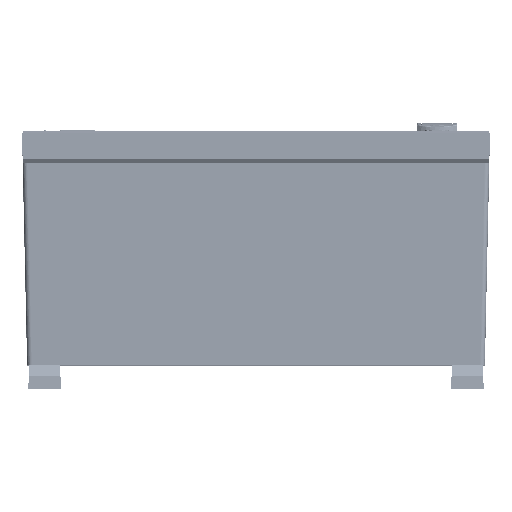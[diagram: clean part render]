
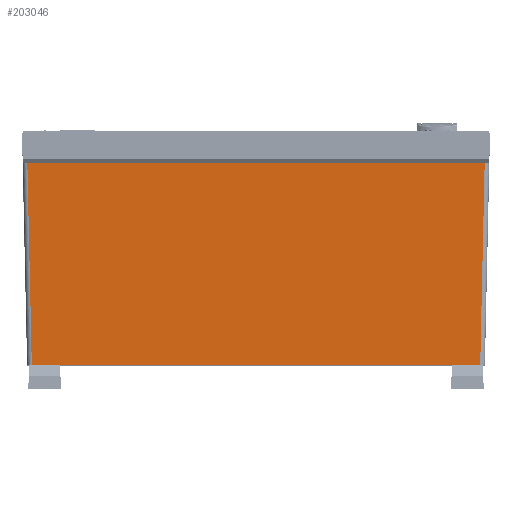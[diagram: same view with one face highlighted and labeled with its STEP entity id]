
A CAD part, top view. The second image highlights one B-rep face of the part: STEP entity #203046.
In plain terms, the highlighted planar face has unit normal (0, -0.022, 1).
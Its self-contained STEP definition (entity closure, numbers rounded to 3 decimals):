
#19193 = EDGE_CURVE ( 'NONE', #250853, #125701, #122202, .T. ) ;
#24388 = DIRECTION ( 'NONE',  ( 0.022, -1., -0.022 ) ) ;
#43624 = CARTESIAN_POINT ( 'NONE',  ( 192.001, 0., 234. ) ) ;
#51003 = EDGE_CURVE ( 'NONE', #250853, #184076, #71271, .T. ) ;
#51835 = CARTESIAN_POINT ( 'NONE',  ( 192.087, 3.912, 234.086 ) ) ;
#52906 = VECTOR ( 'NONE', #100796, 1000. ) ;
#70025 = CARTESIAN_POINT ( 'NONE',  ( 250., 173., 237.8 ) ) ;
#71271 = LINE ( 'NONE', #194657, #52906 ) ;
#72887 = PLANE ( 'NONE',  #252632 ) ;
#79545 = VECTOR ( 'NONE', #24388, 1000. ) ;
#100796 = DIRECTION ( 'NONE',  ( -1., 0., 0. ) ) ;
#103411 = VERTEX_POINT ( 'NONE', #260482 ) ;
#107062 = CARTESIAN_POINT ( 'NONE',  ( 195.814, 173., 237.8 ) ) ;
#111515 = VECTOR ( 'NONE', #232271, 1000. ) ;
#122202 = LINE ( 'NONE', #51835, #111515 ) ;
#125701 = VERTEX_POINT ( 'NONE', #107062 ) ;
#127172 = CARTESIAN_POINT ( 'NONE',  ( -192.001, 0., 234. ) ) ;
#141451 = VECTOR ( 'NONE', #276987, 1000. ) ;
#141795 = DIRECTION ( 'NONE',  ( 0., 0.022, -1. ) ) ;
#144199 = ORIENTED_EDGE ( 'NONE', *, *, #271610, .T. ) ;
#168190 = CARTESIAN_POINT ( 'NONE',  ( -195.805, 172.625, 237.792 ) ) ;
#169170 = ORIENTED_EDGE ( 'NONE', *, *, #19193, .T. ) ;
#184076 = VERTEX_POINT ( 'NONE', #127172 ) ;
#184699 = ORIENTED_EDGE ( 'NONE', *, *, #51003, .F. ) ;
#194657 = CARTESIAN_POINT ( 'NONE',  ( 250., 0., 234. ) ) ;
#203046 = ADVANCED_FACE ( 'NONE', ( #213700 ), #72887, .F. ) ;
#211363 = EDGE_CURVE ( 'NONE', #103411, #125701, #278561, .T. ) ;
#213700 = FACE_OUTER_BOUND ( 'NONE', #235416, .T. ) ;
#215213 = DIRECTION ( 'NONE',  ( -1., 0., 0. ) ) ;
#232271 = DIRECTION ( 'NONE',  ( 0.022, 1., 0.022 ) ) ;
#235416 = EDGE_LOOP ( 'NONE', ( #184699, #169170, #292520, #144199 ) ) ;
#238604 = LINE ( 'NONE', #168190, #79545 ) ;
#250853 = VERTEX_POINT ( 'NONE', #43624 ) ;
#252632 = AXIS2_PLACEMENT_3D ( 'NONE', #291805, #141795, #215213 ) ;
#260482 = CARTESIAN_POINT ( 'NONE',  ( -195.814, 173., 237.8 ) ) ;
#271610 = EDGE_CURVE ( 'NONE', #103411, #184076, #238604, .T. ) ;
#276987 = DIRECTION ( 'NONE',  ( 1., 0., 0. ) ) ;
#278561 = LINE ( 'NONE', #70025, #141451 ) ;
#291805 = CARTESIAN_POINT ( 'NONE',  ( 250., 173., 237.8 ) ) ;
#292520 = ORIENTED_EDGE ( 'NONE', *, *, #211363, .F. ) ;
